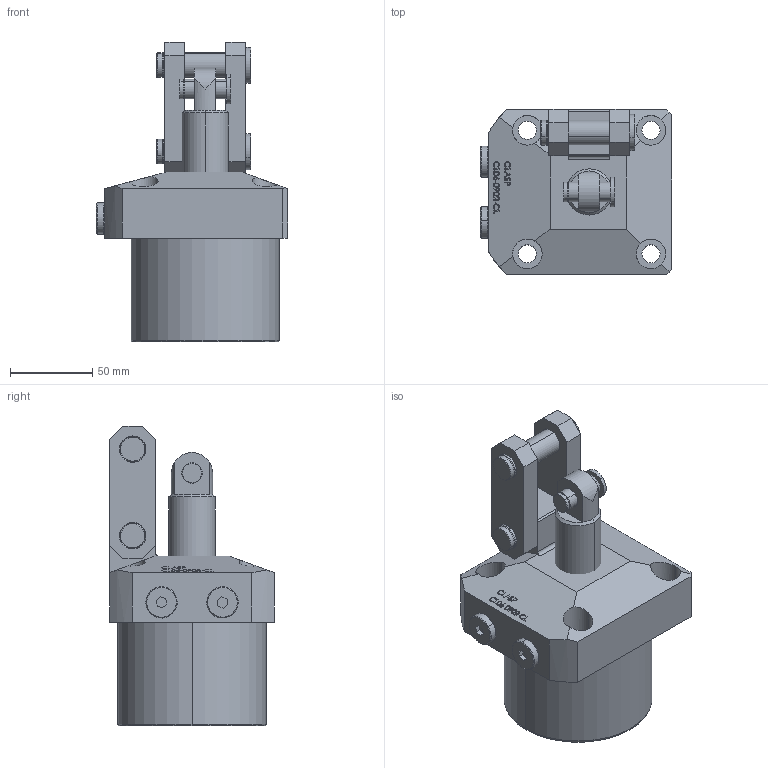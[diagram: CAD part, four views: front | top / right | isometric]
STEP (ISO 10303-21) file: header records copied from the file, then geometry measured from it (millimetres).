
FILE_DESCRIPTION (( 'STEP AP203' ), '1' );
FILE_NAME ('CL06-0902 cl.STEP', '2022-07-05T17:43:47', ( '' ), ( '' ), 'SwSTEP 2.0', 'SolidWorks 2017', '' );
FILE_SCHEMA (( 'CONFIG_CONTROL_DESIGN' ));
Length unit declared in the file: millimetre
Products named in the file (7): CL06-0902 Part1 cl; CL06-0902 Part3 cl; CL06-0902 Part2 cl; CL06-0902 Part5 cl; CL06-0902 Part6 cl; CL06-0902 Part7 cl; CL06-0902 cl
Assembly tree (9 placements, depth 2):
  CL06-0902 cl
    CL06-0902 Part1 cl
    CL06-0902 Part3 cl
    CL06-0902 Part2 cl  x2
    CL06-0902 Part5 cl  x2
    CL06-0902 Part6 cl  x2
    CL06-0902 Part7 cl
Bounding box: 116 x 100 x 182 mm (x, y, z)
Volume: 890705.6 mm3; surface area: 97428.3 mm2
Topology: 9 solids, 9 shells, 404 faces, 983 edges, 636 vertices
Faces by surface type: plane 176, bspline 99, cylinder 81, cone 48
Entity records: 17212 total; most frequent: CARTESIAN_POINT 8672, ORIENTED_EDGE 1726, DIRECTION 1317, EDGE_CURVE 863, VERTEX_POINT 564, LINE 491, VECTOR 491, AXIS2_PLACEMENT_3D 413
